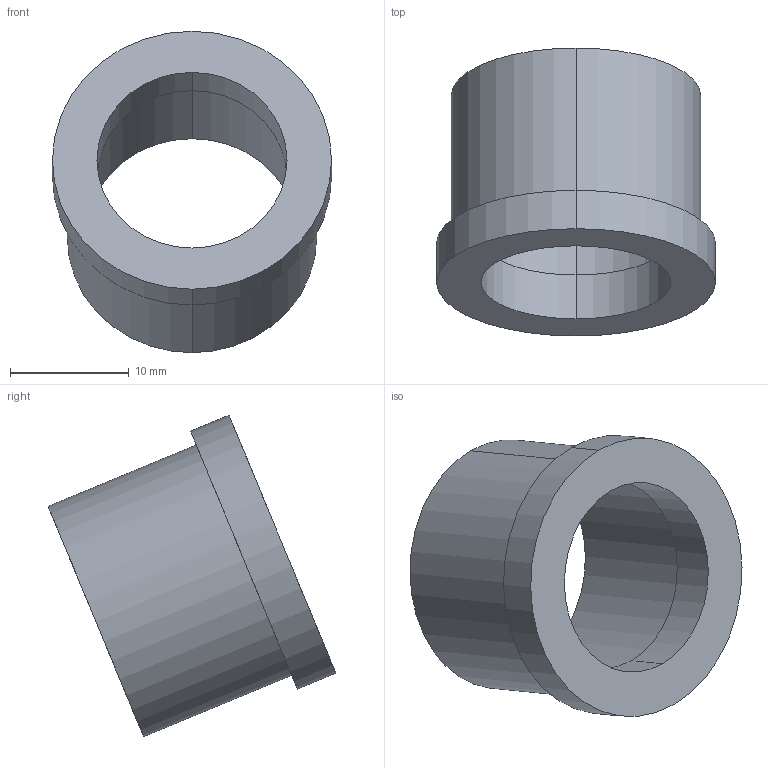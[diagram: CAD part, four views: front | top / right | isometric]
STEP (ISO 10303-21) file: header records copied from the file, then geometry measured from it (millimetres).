
FILE_DESCRIPTION((''),'2;1');
FILE_NAME('14372_18-34(1).stp','2008-09-17T14:41:27',(''),(''),'Mechanical Desktop 2008','Mechanical Desktop 2008',', , ');
FILE_SCHEMA(('CONFIG_CONTROL_DESIGN'));
Length unit declared in the file: millimetre
Products named in the file (2): 14372_18-34(1); CZﾊ姑1
Assembly tree (1 placements, depth 2):
  14372_18-34(1)
    CZﾊ姑1
Bounding box: 23.5 x 24.22 x 27.06 mm (x, y, z)
Volume: 2081.6 mm3; surface area: 2550.6 mm2
Topology: 1 solids, 1 shells, 12 faces, 24 edges, 16 vertices
Faces by surface type: cylinder 8, plane 4
Entity records: 437 total; most frequent: DIRECTION 68, CARTESIAN_POINT 54, ORIENTED_EDGE 48, AXIS2_PLACEMENT_3D 30, EDGE_CURVE 24, VERTEX_POINT 16, CIRCLE 16, EDGE_LOOP 16
